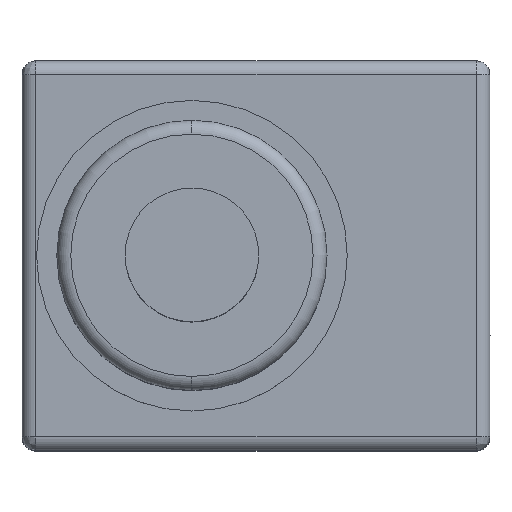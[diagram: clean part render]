
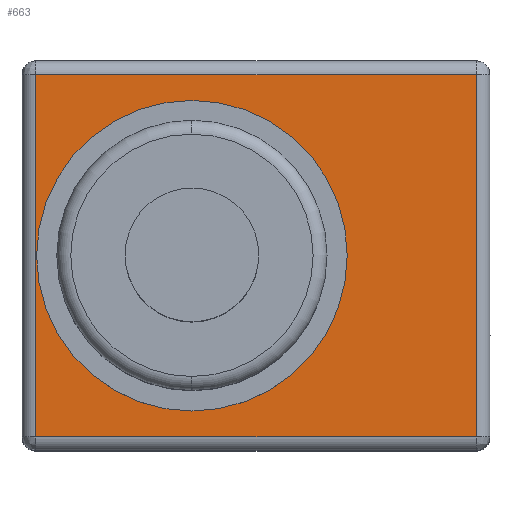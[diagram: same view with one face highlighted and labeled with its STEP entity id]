
A CAD part, top view. The second image highlights one B-rep face of the part: STEP entity #663.
In plain terms, the highlighted planar face has unit normal (0, 0, 1) as drawn and (0, 1, 0) by its records, which use the part's own axes.
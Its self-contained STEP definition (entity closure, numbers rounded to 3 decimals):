
#520 = VERTEX_POINT ( 'NONE', #967 ) ;
#604 = EDGE_CURVE ( 'NONE', #635, #520, #1377, .T. ) ;
#614 = EDGE_CURVE ( 'NONE', #520, #731, #1357, .T. ) ;
#616 = VERTEX_POINT ( 'NONE', #1403 ) ;
#635 = VERTEX_POINT ( 'NONE', #1457 ) ;
#657 = EDGE_CURVE ( 'NONE', #616, #635, #1449, .T. ) ;
#663 = ADVANCED_FACE ( 'NONE', ( #1445, #1444 ), #1496, .T. ) ;
#666 = EDGE_LOOP ( 'NONE', ( #669, #675 ) ) ;
#669 = ORIENTED_EDGE ( 'NONE', *, *, #670, .T. ) ;
#670 = EDGE_CURVE ( 'NONE', #671, #672, #1491, .T. ) ;
#671 = VERTEX_POINT ( 'NONE', #1486 ) ;
#672 = VERTEX_POINT ( 'NONE', #1485 ) ;
#675 = ORIENTED_EDGE ( 'NONE', *, *, #677, .T. ) ;
#677 = EDGE_CURVE ( 'NONE', #672, #671, #1479, .T. ) ;
#681 = EDGE_LOOP ( 'NONE', ( #682, #770, #773, #777 ) ) ;
#682 = ORIENTED_EDGE ( 'NONE', *, *, #707, .T. ) ;
#707 = EDGE_CURVE ( 'NONE', #731, #616, #1541, .T. ) ;
#731 = VERTEX_POINT ( 'NONE', #1565 ) ;
#770 = ORIENTED_EDGE ( 'NONE', *, *, #657, .T. ) ;
#773 = ORIENTED_EDGE ( 'NONE', *, *, #604, .T. ) ;
#777 = ORIENTED_EDGE ( 'NONE', *, *, #614, .T. ) ;
#967 = CARTESIAN_POINT ( 'NONE',  ( 10.2, 8.3, 6.5 ) ) ;
#1357 = LINE ( 'NONE', #1412, #1411 ) ;
#1374 = DIRECTION ( 'NONE',  ( 1., 0., 0. ) ) ;
#1375 = VECTOR ( 'NONE', #1374, 1000. ) ;
#1376 = CARTESIAN_POINT ( 'NONE',  ( 2.3, 8.3, 6.5 ) ) ;
#1377 = LINE ( 'NONE', #1376, #1375 ) ;
#1403 = CARTESIAN_POINT ( 'NONE',  ( -5.6, 8.3, -6.5 ) ) ;
#1410 = DIRECTION ( 'NONE',  ( 0., 0., -1. ) ) ;
#1411 = VECTOR ( 'NONE', #1410, 1000. ) ;
#1412 = CARTESIAN_POINT ( 'NONE',  ( 10.2, 8.3, 0. ) ) ;
#1444 = FACE_OUTER_BOUND ( 'NONE', #681, .T. ) ;
#1445 = FACE_BOUND ( 'NONE', #666, .T. ) ;
#1446 = DIRECTION ( 'NONE',  ( 0., 0., 1. ) ) ;
#1447 = VECTOR ( 'NONE', #1446, 1000. ) ;
#1448 = CARTESIAN_POINT ( 'NONE',  ( -5.6, 8.3, 0. ) ) ;
#1449 = LINE ( 'NONE', #1448, #1447 ) ;
#1457 = CARTESIAN_POINT ( 'NONE',  ( -5.6, 8.3, 6.5 ) ) ;
#1474 = DIRECTION ( 'NONE',  ( 0., 0., -1. ) ) ;
#1475 = DIRECTION ( 'NONE',  ( 0., -1., 0. ) ) ;
#1476 = CARTESIAN_POINT ( 'NONE',  ( 0., 8.3, 0. ) ) ;
#1478 = AXIS2_PLACEMENT_3D ( 'NONE', #1476, #1475, #1474 ) ;
#1479 = CIRCLE ( 'NONE', #1478, 5. ) ;
#1485 = CARTESIAN_POINT ( 'NONE',  ( 0., 8.3, -5. ) ) ;
#1486 = CARTESIAN_POINT ( 'NONE',  ( 0., 8.3, 5. ) ) ;
#1487 = DIRECTION ( 'NONE',  ( 0., 0., -1. ) ) ;
#1488 = DIRECTION ( 'NONE',  ( 0., -1., 0. ) ) ;
#1489 = CARTESIAN_POINT ( 'NONE',  ( 0., 8.3, 0. ) ) ;
#1490 = AXIS2_PLACEMENT_3D ( 'NONE', #1489, #1488, #1487 ) ;
#1491 = CIRCLE ( 'NONE', #1490, 5. ) ;
#1492 = DIRECTION ( 'NONE',  ( 0., 0., 1. ) ) ;
#1493 = DIRECTION ( 'NONE',  ( 0., 1., 0. ) ) ;
#1494 = CARTESIAN_POINT ( 'NONE',  ( -5.6, 8.3, -6.5 ) ) ;
#1495 = AXIS2_PLACEMENT_3D ( 'NONE', #1494, #1493, #1492 ) ;
#1496 = PLANE ( 'NONE',  #1495 ) ;
#1538 = DIRECTION ( 'NONE',  ( -1., 0., 0. ) ) ;
#1539 = VECTOR ( 'NONE', #1538, 1000. ) ;
#1540 = CARTESIAN_POINT ( 'NONE',  ( 2.3, 8.3, -6.5 ) ) ;
#1541 = LINE ( 'NONE', #1540, #1539 ) ;
#1565 = CARTESIAN_POINT ( 'NONE',  ( 10.2, 8.3, -6.5 ) ) ;
